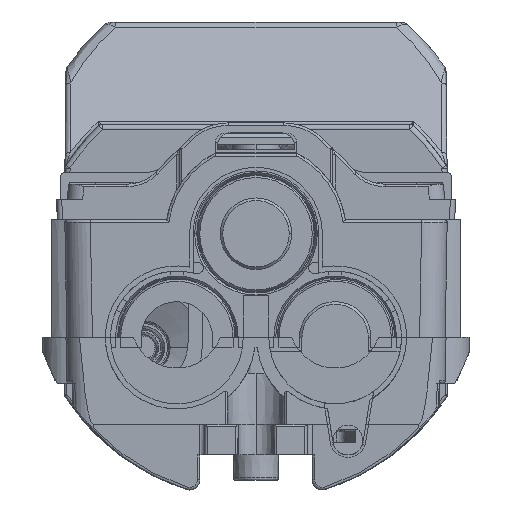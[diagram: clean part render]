
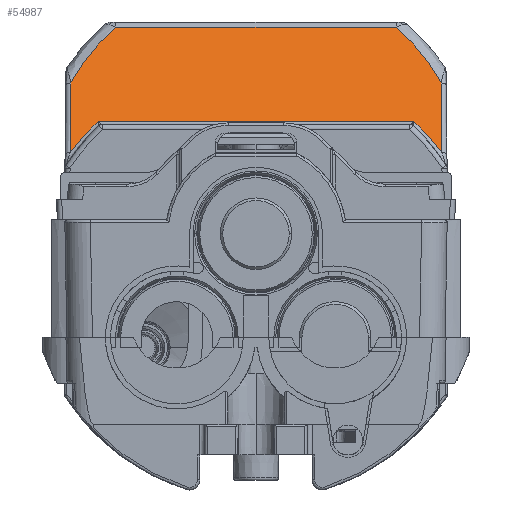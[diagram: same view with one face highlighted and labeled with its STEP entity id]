
A CAD part, left-side view. The second image highlights one B-rep face of the part: STEP entity #54987.
In plain terms, the highlighted planar face has unit normal (-0.866, 0, 0.5).
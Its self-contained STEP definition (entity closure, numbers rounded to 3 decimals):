
#80 = EDGE_CURVE ( 'NONE', #16635, #50097, #5707, .T. ) ;
#408 =( BOUNDED_CURVE ( )  B_SPLINE_CURVE ( 3, ( #21002, #7921, #20068, #9132 ),
 .UNSPECIFIED., .F., .T. ) 
 B_SPLINE_CURVE_WITH_KNOTS ( ( 4, 4 ),
 ( 3.888, 4.068 ),
 .UNSPECIFIED. ) 
 CURVE ( )  GEOMETRIC_REPRESENTATION_ITEM ( )  RATIONAL_B_SPLINE_CURVE ( ( 1., 0.997, 0.997, 1. ) ) 
 REPRESENTATION_ITEM ( '' )  );
#494 = CARTESIAN_POINT ( 'NONE',  ( -254.146, -36.264, 83.81 ) ) ;
#1349 = EDGE_CURVE ( 'NONE', #28356, #16635, #408, .T. ) ;
#1552 =( BOUNDED_CURVE ( )  B_SPLINE_CURVE ( 3, ( #39417, #35150, #18158, #47871 ),
 .UNSPECIFIED., .F., .T. ) 
 B_SPLINE_CURVE_WITH_KNOTS ( ( 4, 4 ),
 ( 0.723, 1.063 ),
 .UNSPECIFIED. ) 
 CURVE ( )  GEOMETRIC_REPRESENTATION_ITEM ( )  RATIONAL_B_SPLINE_CURVE ( ( 1., 0.99, 0.99, 1. ) ) 
 REPRESENTATION_ITEM ( '' )  );
#2221 = PLANE ( 'NONE',  #33948 ) ;
#2446 = ORIENTED_EDGE ( 'NONE', *, *, #11783, .T. ) ;
#3763 = VECTOR ( 'NONE', #17191, 1000. ) ;
#4605 = CARTESIAN_POINT ( 'NONE',  ( -258.511, 30.898, 76.25 ) ) ;
#4957 = CARTESIAN_POINT ( 'NONE',  ( -249.636, -31.001, 91.623 ) ) ;
#5707 = LINE ( 'NONE', #5708, #49747 ) ;
#5708 = CARTESIAN_POINT ( 'NONE',  ( -258.518, -36.33, 76.238 ) ) ;
#6687 = DIRECTION ( 'NONE',  ( 0.5, 0., 0.866 ) ) ;
#7921 = CARTESIAN_POINT ( 'NONE',  ( -259.584, -32.907, 74.392 ) ) ;
#9132 = CARTESIAN_POINT ( 'NONE',  ( -262.02, -36.383, 70.173 ) ) ;
#9406 = CARTESIAN_POINT ( 'NONE',  ( -247.83, 27.457, 94.75 ) ) ;
#9535 = FACE_OUTER_BOUND ( 'NONE', #45427, .T. ) ;
#11353 = CARTESIAN_POINT ( 'NONE',  ( -247.83, -27.457, 94.75 ) ) ;
#11783 = EDGE_CURVE ( 'NONE', #24605, #28356, #16861, .T. ) ;
#14657 = ORIENTED_EDGE ( 'NONE', *, *, #29038, .T. ) ;
#15205 = CARTESIAN_POINT ( 'NONE',  ( -258.8, 38.25, 75.75 ) ) ;
#15333 = LINE ( 'NONE', #54994, #3763 ) ;
#15948 =( BOUNDED_CURVE ( )  B_SPLINE_CURVE ( 3, ( #494, #30595, #4957, #34977 ),
 .UNSPECIFIED., .F., .F. ) 
 B_SPLINE_CURVE_WITH_KNOTS ( ( 4, 4 ),
 ( 5.22, 5.56 ),
 .UNSPECIFIED. ) 
 CURVE ( )  GEOMETRIC_REPRESENTATION_ITEM ( )  RATIONAL_B_SPLINE_CURVE ( ( 1., 0.99, 0.99, 1. ) ) 
 REPRESENTATION_ITEM ( '' )  );
#16635 = VERTEX_POINT ( 'NONE', #53251 ) ;
#16861 = LINE ( 'NONE', #20430, #49398 ) ;
#17191 = DIRECTION ( 'NONE',  ( -0.5, 0.008, -0.866 ) ) ;
#17990 = CARTESIAN_POINT ( 'NONE',  ( -260.757, 34.74, 72.361 ) ) ;
#18158 = CARTESIAN_POINT ( 'NONE',  ( -251.762, 33.965, 87.941 ) ) ;
#18525 = ORIENTED_EDGE ( 'NONE', *, *, #42886, .T. ) ;
#18836 =( BOUNDED_CURVE ( )  B_SPLINE_CURVE ( 3, ( #39248, #17990, #47716, #22237 ),
 .UNSPECIFIED., .F., .F. ) 
 B_SPLINE_CURVE_WITH_KNOTS ( ( 4, 4 ),
 ( 2.215, 2.395 ),
 .UNSPECIFIED. ) 
 CURVE ( )  GEOMETRIC_REPRESENTATION_ITEM ( )  RATIONAL_B_SPLINE_CURVE ( ( 1., 0.997, 0.997, 1. ) ) 
 REPRESENTATION_ITEM ( '' )  );
#20068 = CARTESIAN_POINT ( 'NONE',  ( -260.757, -34.74, 72.361 ) ) ;
#20430 = CARTESIAN_POINT ( 'NONE',  ( -258.511, 38.25, 76.25 ) ) ;
#21002 = CARTESIAN_POINT ( 'NONE',  ( -258.511, -30.898, 76.25 ) ) ;
#21203 = VERTEX_POINT ( 'NONE', #37972 ) ;
#22237 = CARTESIAN_POINT ( 'NONE',  ( -258.511, 30.898, 76.25 ) ) ;
#24605 = VERTEX_POINT ( 'NONE', #4605 ) ;
#25045 = CARTESIAN_POINT ( 'NONE',  ( -254.146, -36.264, 83.81 ) ) ;
#25834 = VERTEX_POINT ( 'NONE', #11353 ) ;
#27559 = VERTEX_POINT ( 'NONE', #9406 ) ;
#28055 = DIRECTION ( 'NONE',  ( 0., 1., 0. ) ) ;
#28356 = VERTEX_POINT ( 'NONE', #41716 ) ;
#29038 = EDGE_CURVE ( 'NONE', #21203, #24605, #18836, .T. ) ;
#30595 = CARTESIAN_POINT ( 'NONE',  ( -251.762, -33.965, 87.941 ) ) ;
#30620 = EDGE_CURVE ( 'NONE', #46902, #21203, #15333, .T. ) ;
#32269 = DIRECTION ( 'NONE',  ( -0.866, 0., 0.5 ) ) ;
#33923 = EDGE_CURVE ( 'NONE', #25834, #27559, #38510, .T. ) ;
#33948 = AXIS2_PLACEMENT_3D ( 'NONE', #15205, #32269, #6687 ) ;
#34977 = CARTESIAN_POINT ( 'NONE',  ( -247.83, -27.457, 94.75 ) ) ;
#35150 = CARTESIAN_POINT ( 'NONE',  ( -249.636, 31.001, 91.623 ) ) ;
#35517 = ORIENTED_EDGE ( 'NONE', *, *, #1349, .T. ) ;
#37167 = VECTOR ( 'NONE', #28055, 1000. ) ;
#37972 = CARTESIAN_POINT ( 'NONE',  ( -262.02, 36.383, 70.173 ) ) ;
#38510 = LINE ( 'NONE', #49275, #37167 ) ;
#39248 = CARTESIAN_POINT ( 'NONE',  ( -262.02, 36.383, 70.173 ) ) ;
#39417 = CARTESIAN_POINT ( 'NONE',  ( -247.83, 27.457, 94.75 ) ) ;
#41671 = DIRECTION ( 'NONE',  ( 0., -1., 0. ) ) ;
#41716 = CARTESIAN_POINT ( 'NONE',  ( -258.511, -30.898, 76.25 ) ) ;
#42478 = ORIENTED_EDGE ( 'NONE', *, *, #80, .T. ) ;
#42886 = EDGE_CURVE ( 'NONE', #27559, #46902, #1552, .T. ) ;
#44037 = ORIENTED_EDGE ( 'NONE', *, *, #33923, .T. ) ;
#45127 = DIRECTION ( 'NONE',  ( 0.5, 0.008, 0.866 ) ) ;
#45427 = EDGE_LOOP ( 'NONE', ( #52036, #44037, #18525, #48225, #14657, #2446, #35517, #42478 ) ) ;
#46902 = VERTEX_POINT ( 'NONE', #50109 ) ;
#47716 = CARTESIAN_POINT ( 'NONE',  ( -259.584, 32.907, 74.392 ) ) ;
#47871 = CARTESIAN_POINT ( 'NONE',  ( -254.146, 36.264, 83.81 ) ) ;
#48225 = ORIENTED_EDGE ( 'NONE', *, *, #30620, .T. ) ;
#49275 = CARTESIAN_POINT ( 'NONE',  ( -247.83, 26.28, 94.75 ) ) ;
#49398 = VECTOR ( 'NONE', #41671, 1000. ) ;
#49747 = VECTOR ( 'NONE', #45127, 1000. ) ;
#50097 = VERTEX_POINT ( 'NONE', #25045 ) ;
#50109 = CARTESIAN_POINT ( 'NONE',  ( -254.146, 36.264, 83.81 ) ) ;
#52036 = ORIENTED_EDGE ( 'NONE', *, *, #52452, .T. ) ;
#52452 = EDGE_CURVE ( 'NONE', #50097, #25834, #15948, .T. ) ;
#53251 = CARTESIAN_POINT ( 'NONE',  ( -262.02, -36.383, 70.173 ) ) ;
#54987 = ADVANCED_FACE ( 'NONE', ( #9535 ), #2221, .T. ) ;
#54994 = CARTESIAN_POINT ( 'NONE',  ( -258.807, 36.334, 75.737 ) ) ;
